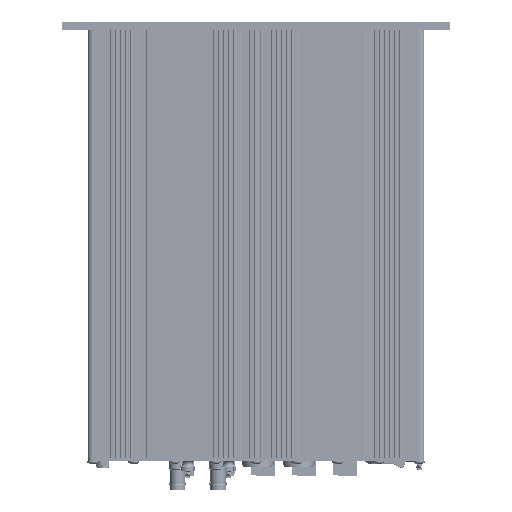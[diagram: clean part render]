
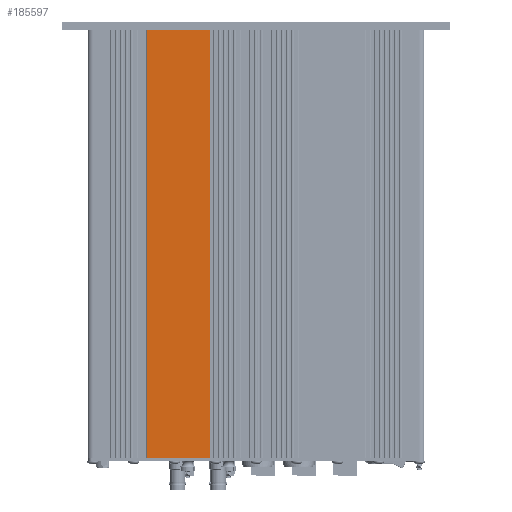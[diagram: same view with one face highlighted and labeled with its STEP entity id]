
A CAD part, front view. The second image highlights one B-rep face of the part: STEP entity #185597.
In plain terms, the highlighted planar face has unit normal (0, -1, 0).
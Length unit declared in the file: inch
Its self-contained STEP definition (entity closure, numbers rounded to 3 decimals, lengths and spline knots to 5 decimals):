
#23098 = VERTEX_POINT ( 'NONE', #397457 ) ;
#27914 = LINE ( 'NONE', #465171, #158503 ) ;
#44145 = DIRECTION ( 'NONE',  ( 0., -1., 0. ) ) ;
#52360 = ORIENTED_EDGE ( 'NONE', *, *, #122139, .F. ) ;
#85348 = DIRECTION ( 'NONE',  ( 1., 0., 0. ) ) ;
#90362 = AXIS2_PLACEMENT_3D ( 'NONE', #144622, #44145, #120507 ) ;
#106466 = PLANE ( 'NONE',  #90362 ) ;
#109416 = VECTOR ( 'NONE', #85348, 39.37008 ) ;
#113993 = VERTEX_POINT ( 'NONE', #363474 ) ;
#116235 = VECTOR ( 'NONE', #437577, 39.37008 ) ;
#120507 = DIRECTION ( 'NONE',  ( 0., 0., -1. ) ) ;
#122139 = EDGE_CURVE ( 'NONE', #270050, #113993, #146229, .T. ) ;
#127210 = ORIENTED_EDGE ( 'NONE', *, *, #172960, .T. ) ;
#138111 = LINE ( 'NONE', #353131, #377221 ) ;
#144622 = CARTESIAN_POINT ( 'NONE',  ( -2.68016, -1.7535, -5.25 ) ) ;
#146229 = LINE ( 'NONE', #292160, #116235 ) ;
#152802 = EDGE_CURVE ( 'NONE', #113993, #461761, #27914, .T. ) ;
#156047 = ORIENTED_EDGE ( 'NONE', *, *, #237493, .T. ) ;
#158503 = VECTOR ( 'NONE', #168984, 39.37008 ) ;
#164070 = CARTESIAN_POINT ( 'NONE',  ( -2.68016, -1.7535, -5.25 ) ) ;
#168984 = DIRECTION ( 'NONE',  ( 1., 0., 0. ) ) ;
#172960 = EDGE_CURVE ( 'NONE', #270050, #23098, #202243, .T. ) ;
#176251 = DIRECTION ( 'NONE',  ( 0., 0., 1. ) ) ;
#185597 = ADVANCED_FACE ( 'NONE', ( #285810 ), #106466, .T. ) ;
#202243 = LINE ( 'NONE', #164070, #109416 ) ;
#237493 = EDGE_CURVE ( 'NONE', #23098, #461761, #138111, .T. ) ;
#270050 = VERTEX_POINT ( 'NONE', #471089 ) ;
#285810 = FACE_OUTER_BOUND ( 'NONE', #406221, .T. ) ;
#292160 = CARTESIAN_POINT ( 'NONE',  ( -2.68016, -1.7535, -5.25 ) ) ;
#353131 = CARTESIAN_POINT ( 'NONE',  ( -1.13891, -1.7535, -5.25 ) ) ;
#363474 = CARTESIAN_POINT ( 'NONE',  ( -2.68016, -1.7535, 5.25 ) ) ;
#377221 = VECTOR ( 'NONE', #176251, 39.37008 ) ;
#388487 = CARTESIAN_POINT ( 'NONE',  ( -1.13891, -1.7535, 5.25 ) ) ;
#397457 = CARTESIAN_POINT ( 'NONE',  ( -1.13891, -1.7535, -5.25 ) ) ;
#405974 = ORIENTED_EDGE ( 'NONE', *, *, #152802, .F. ) ;
#406221 = EDGE_LOOP ( 'NONE', ( #405974, #52360, #127210, #156047 ) ) ;
#437577 = DIRECTION ( 'NONE',  ( 0., 0., 1. ) ) ;
#461761 = VERTEX_POINT ( 'NONE', #388487 ) ;
#465171 = CARTESIAN_POINT ( 'NONE',  ( -2.68016, -1.7535, 5.25 ) ) ;
#471089 = CARTESIAN_POINT ( 'NONE',  ( -2.68016, -1.7535, -5.25 ) ) ;
